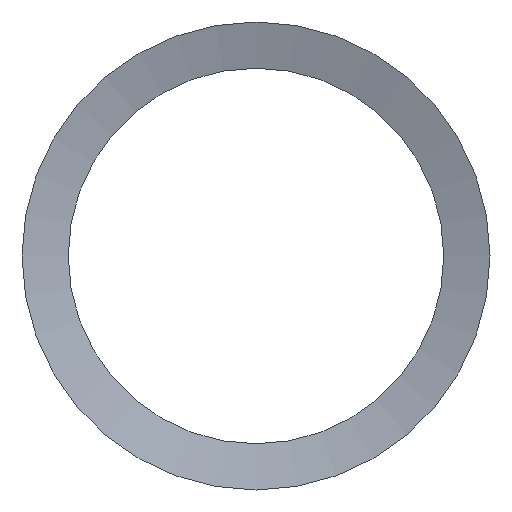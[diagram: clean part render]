
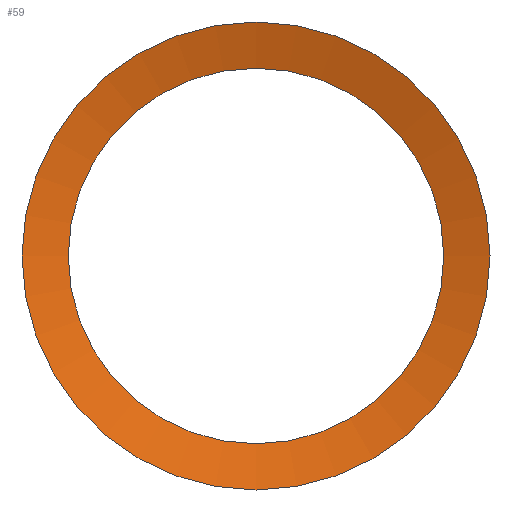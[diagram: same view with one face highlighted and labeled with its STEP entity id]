
A CAD part, front view. The second image highlights one B-rep face of the part: STEP entity #59.
In plain terms, the highlighted conical face has half-angle 75 degrees and reference radius 17.451 mm.
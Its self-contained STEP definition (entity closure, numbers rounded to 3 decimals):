
#13=CONICAL_SURFACE($,#69,17.451,75.);
#16=FACE_BOUND($,#27,.T.);
#20=FACE_OUTER_BOUND($,#26,.T.);
#26=EDGE_LOOP($,(#46));
#27=EDGE_LOOP($,(#47));
#31=CIRCLE($,#66,16.25);
#33=CIRCLE($,#70,20.25);
#35=VERTEX_POINT($,#94);
#37=VERTEX_POINT($,#100);
#39=EDGE_CURVE($,#35,#35,#31,.T.);
#41=EDGE_CURVE($,#37,#37,#33,.T.);
#46=ORIENTED_EDGE($,*,*,#39,.T.);
#47=ORIENTED_EDGE($,*,*,#41,.F.);
#59=ADVANCED_FACE($,(#20,#16),#13,.F.);
#66=AXIS2_PLACEMENT_3D($,#95,#78,#79);
#69=AXIS2_PLACEMENT_3D($,#99,#84,#85);
#70=AXIS2_PLACEMENT_3D($,#101,#86,#87);
#78=DIRECTION('center_axis',(0.,1.,0.));
#79=DIRECTION('ref_axis',(1.,0.,0.));
#84=DIRECTION('center_axis',(0.,-1.,0.));
#85=DIRECTION('ref_axis',(-1.,0.,0.));
#86=DIRECTION('center_axis',(0.,1.,0.));
#87=DIRECTION('ref_axis',(-1.,0.,0.));
#94=CARTESIAN_POINT('',(-16.25,-0.428,0.));
#95=CARTESIAN_POINT('Origin',(0.,-0.428,0.));
#99=CARTESIAN_POINT('Origin',(0.,-0.75,0.));
#100=CARTESIAN_POINT('',(-20.25,-1.5,0.));
#101=CARTESIAN_POINT('Origin',(0.,-1.5,0.));
